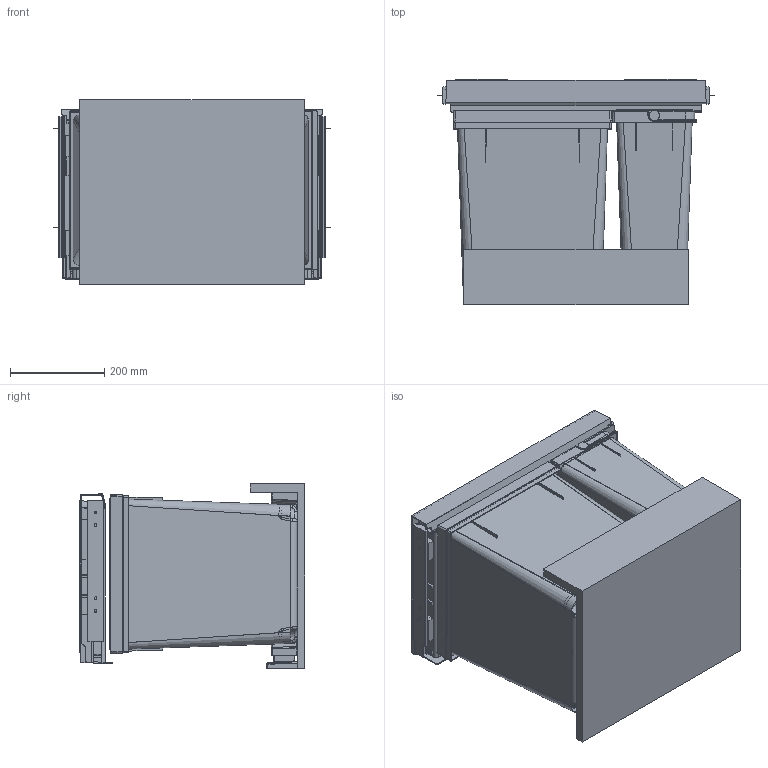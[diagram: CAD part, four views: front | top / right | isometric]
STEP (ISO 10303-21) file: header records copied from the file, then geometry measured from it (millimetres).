
FILE_DESCRIPTION((''),'2;1');
FILE_NAME('1003045','2024-07-17T15:35:41',('pbe'),(''),'CREO PARAMETRIC BY PTC INC, 2021184','CREO PARAMETRIC BY PTC INC, 2021184','');
FILE_SCHEMA(('AUTOMOTIVE_DESIGN { 1 0 10303 214 1 1 1 1 }'));
Products named in the file (1): 1003045
Bounding box: 588 x 479.5 x 393 mm (x, y, z)
Volume: 8081035 mm3; surface area: 4047208.2 mm2
Topology: 16 solids, 16 shells, 2006 faces, 5365 edges, 3431 vertices
Faces by surface type: plane 1032, cylinder 472, bspline 238, cone 116, torus 102, sphere 38, extrusion 8
Entity records: 81672 total; most frequent: CARTESIAN_POINT 33449, ORIENTED_EDGE 10654, DIRECTION 9115, EDGE_CURVE 5327, VERTEX_POINT 3431, VECTOR 3178, LINE 3170, AXIS2_PLACEMENT_3D 2967
